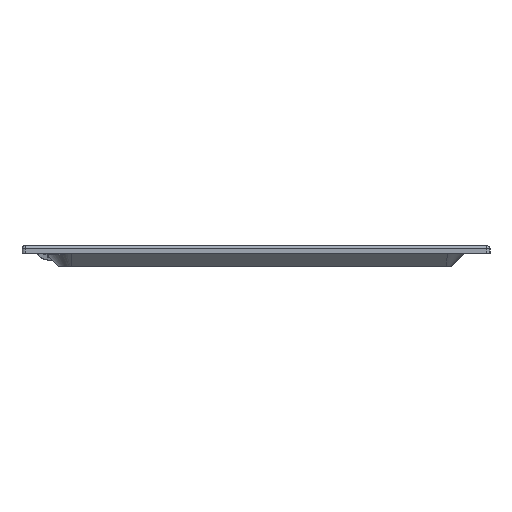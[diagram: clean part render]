
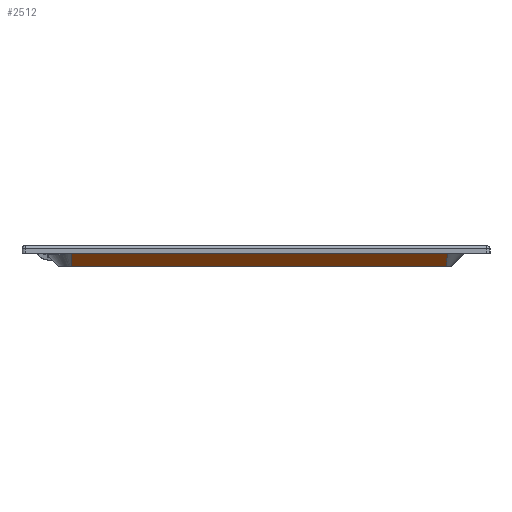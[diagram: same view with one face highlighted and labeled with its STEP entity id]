
A CAD part, front view. The second image highlights one B-rep face of the part: STEP entity #2512.
In plain terms, the highlighted planar face has unit normal (0.015, -0.707, -0.707) as drawn and (-0.707, -0.015, -0.707) by its records, which use the part's own axes.
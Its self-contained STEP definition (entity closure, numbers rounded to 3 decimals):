
#2068=CARTESIAN_POINT('',(-769.93,53.421,13.803));
#2069=VERTEX_POINT('',#2068);
#2095=CARTESIAN_POINT('',(-767.281,-0.676,12.288));
#2096=VERTEX_POINT('',#2095);
#2097=CARTESIAN_POINT('',(-767.281,-0.676,12.288));
#2098=CARTESIAN_POINT('',(-767.681,9.088,12.483));
#2099=CARTESIAN_POINT('',(-768.121,19.113,12.714));
#2100=CARTESIAN_POINT('',(-768.994,36.937,13.213));
#2101=CARTESIAN_POINT('',(-769.441,45.361,13.483));
#2102=CARTESIAN_POINT('',(-769.93,53.421,13.803));
#2103=B_SPLINE_CURVE_WITH_KNOTS('',3,(#2097,#2098,#2099,#2100,#2101,#2102),.UNSPECIFIED.,.F.,.U.,(4,2,4),(-5.356,-2.424,0.),.UNSPECIFIED.);
#2104=EDGE_CURVE('',#2069,#2096,#2103,.F.);
#2106=CARTESIAN_POINT('',(-755.425,-718.109,15.463));
#2107=VERTEX_POINT('',#2106);
#2108=CARTESIAN_POINT('',(-755.425,-718.109,15.463));
#2109=CARTESIAN_POINT('',(-756.212,-599.145,13.758));
#2110=CARTESIAN_POINT('',(-757.335,-469.008,12.154));
#2111=CARTESIAN_POINT('',(-760.078,-276.699,10.869));
#2112=CARTESIAN_POINT('',(-761.425,-200.208,10.613));
#2113=CARTESIAN_POINT('',(-764.26,-87.565,11.088));
#2114=CARTESIAN_POINT('',(-765.612,-41.484,11.475));
#2115=CARTESIAN_POINT('',(-767.281,-0.676,12.288));
#2116=B_SPLINE_CURVE_WITH_KNOTS('',3,(#2108,#2109,#2110,#2111,#2112,#2113,#2114,#2115),.UNSPECIFIED.,.F.,.U.,(4,2,2,4),(-69.308,-33.527,-12.255,0.),.UNSPECIFIED.);
#2117=EDGE_CURVE('',#2096,#2107,#2116,.F.);
#2422=CARTESIAN_POINT('',(-736.134,54.129,-20.));
#2423=VERTEX_POINT('',#2422);
#2441=CARTESIAN_POINT('',(-736.134,54.129,-20.));
#2442=DIRECTION('',(-0.707,-0.015,0.707));
#2443=VECTOR('',#2442,47.805);
#2444=LINE('',#2441,#2443);
#2445=EDGE_CURVE('',#2069,#2423,#2444,.F.);
#2478=CARTESIAN_POINT('',(-735.0,-440.894,-10.765));
#2479=DIRECTION('',(-0.707,-0.015,-0.707));
#2480=DIRECTION('',(-0.707,0.,0.707));
#2481=AXIS2_PLACEMENT_3D('',#2478,#2479,#2480);
#2482=PLANE('',#2481);
#2483=ORIENTED_EDGE('',*,*,#2104,.F.);
#2484=ORIENTED_EDGE('',*,*,#2445,.T.);
#2485=CARTESIAN_POINT('',(-715.942,-909.601,-20.));
#2486=VERTEX_POINT('',#2485);
#2487=CARTESIAN_POINT('',(-736.134,54.129,-20.0));
#2488=DIRECTION('',(0.021,-1.,0.0));
#2489=VECTOR('',#2488,963.941);
#2490=LINE('',#2487,#2489);
#2491=EDGE_CURVE('',#2486,#2423,#2490,.F.);
#2492=ORIENTED_EDGE('',*,*,#2491,.F.);
#2493=CARTESIAN_POINT('',(-754.33,-910.405,18.396));
#2494=VERTEX_POINT('',#2493);
#2495=CARTESIAN_POINT('',(-715.942,-909.601,-20.));
#2496=DIRECTION('',(-0.707,-0.015,0.707));
#2497=VECTOR('',#2496,54.3);
#2498=LINE('',#2495,#2497);
#2499=EDGE_CURVE('',#2494,#2486,#2498,.F.);
#2500=ORIENTED_EDGE('',*,*,#2499,.F.);
#2501=CARTESIAN_POINT('',(-755.425,-718.109,15.463));
#2502=CARTESIAN_POINT('',(-755.11,-765.777,16.146));
#2503=CARTESIAN_POINT('',(-754.825,-813.807,16.867));
#2504=CARTESIAN_POINT('',(-754.566,-862.045,17.619));
#2505=CARTESIAN_POINT('',(-754.33,-910.405,18.396));
#2506=B_SPLINE_CURVE_WITH_KNOTS('',4,(#2501,#2502,#2503,#2504,#2505),.UNSPECIFIED.,.F.,.U.,(5,5),(2796.37,3059.627),.UNSPECIFIED.);
#2507=EDGE_CURVE('',#2107,#2494,#2506,.T.);
#2508=ORIENTED_EDGE('',*,*,#2507,.F.);
#2509=ORIENTED_EDGE('',*,*,#2117,.F.);
#2510=EDGE_LOOP('',(#2483,#2484,#2492,#2500,#2508,#2509));
#2511=FACE_OUTER_BOUND('',#2510,.T.);
#2512=ADVANCED_FACE('',(#2511),#2482,.T.);
